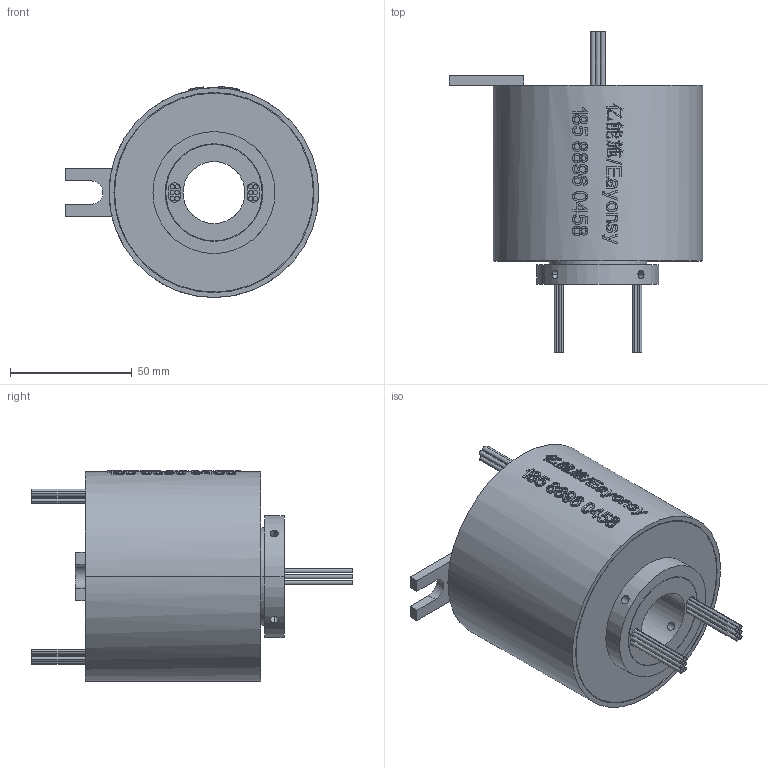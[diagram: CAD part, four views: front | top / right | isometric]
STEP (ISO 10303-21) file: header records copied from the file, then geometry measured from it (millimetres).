
FILE_DESCRIPTION(/* description */ (''),/* implementation_level */ '2;1');
FILE_NAME(/* name */ 'HD2586-1210_stp.stp',/* time_stamp */ '2025-01-19T09:15:48+08:00',/* author */ (''),/* organization */ (''),/* preprocessor_version */ 'ST-DEVELOPER v16.7',/* originating_system */ 'SIEMENS PLM Software NX 12.0',/* authorisation */ '');
FILE_SCHEMA (('AUTOMOTIVE_DESIGN { 1 0 10303 214 3 1 1 1 }'));
Length unit declared in the file: millimetre
Products named in the file (1): HX05089CE4B9b99o
Bounding box: 104 x 131.5 x 86.46 mm (x, y, z)
Volume: 397019 mm3; surface area: 47204.1 mm2
Topology: 1 solids, 1 shells, 477 faces, 1178 edges, 785 vertices
Faces by surface type: plane 242, cylinder 109, extrusion 93, bspline 29, torus 4
Entity records: 36237 total; most frequent: CARTESIAN_POINT 25855, ORIENTED_EDGE 2332, DIRECTION 1677, EDGE_CURVE 1166, VERTEX_POINT 785, B_SPLINE_CURVE_WITH_KNOTS 701, AXIS2_PLACEMENT_3D 670, EDGE_LOOP 583
